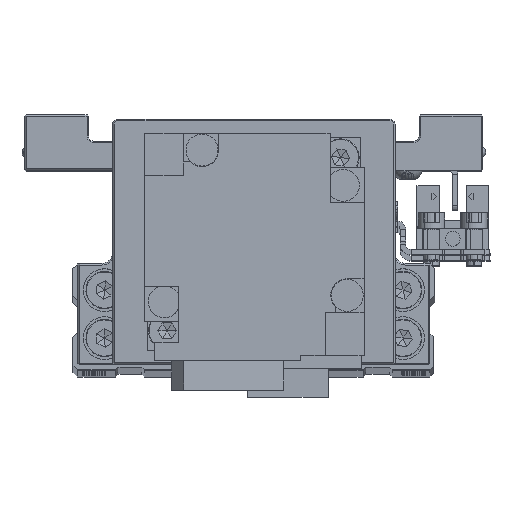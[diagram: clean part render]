
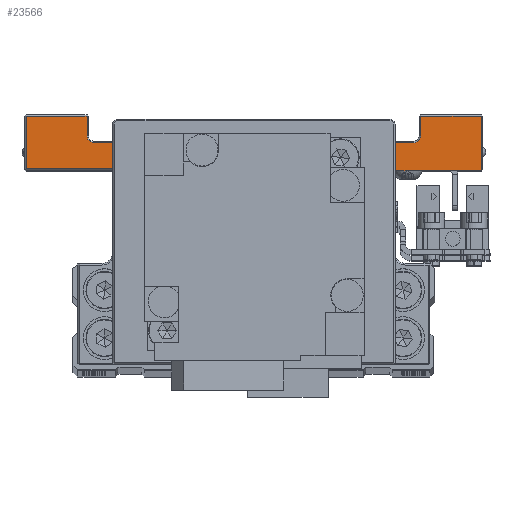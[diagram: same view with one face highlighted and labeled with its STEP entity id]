
A CAD part, top view. The second image highlights one B-rep face of the part: STEP entity #23566.
In plain terms, the highlighted planar face has unit normal (0, 0, 1) as drawn and (1, 0, 0) by its records, which use the part's own axes.
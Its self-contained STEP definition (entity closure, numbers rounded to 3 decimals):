
#17 = CIRCLE ( 'NONE', #21192, 1.3 ) ;
#268 = EDGE_CURVE ( 'NONE', #10484, #15657, #6450, .T. ) ;
#1078 = VECTOR ( 'NONE', #37316, 1000. ) ;
#1325 = EDGE_CURVE ( 'NONE', #1450, #30430, #14223, .T. ) ;
#1450 = VERTEX_POINT ( 'NONE', #26528 ) ;
#1986 = CARTESIAN_POINT ( 'NONE',  ( 45., 17.7, -31.3 ) ) ;
#2356 = CARTESIAN_POINT ( 'NONE',  ( 45., 7.5, 43. ) ) ;
#2492 = VERTEX_POINT ( 'NONE', #27348 ) ;
#3012 = ORIENTED_EDGE ( 'NONE', *, *, #11548, .T. ) ;
#3023 = DIRECTION ( 'NONE',  ( 0., 0., 1. ) ) ;
#3236 = LINE ( 'NONE', #14774, #27435 ) ;
#3666 = CARTESIAN_POINT ( 'NONE',  ( 45., 7.5, -31.3 ) ) ;
#4697 = CARTESIAN_POINT ( 'NONE',  ( 45., 7.8, 42.7 ) ) ;
#5453 = CARTESIAN_POINT ( 'NONE',  ( 45., 14., 30. ) ) ;
#5648 = CARTESIAN_POINT ( 'NONE',  ( 45., -8.2, -19.7 ) ) ;
#5871 = PLANE ( 'NONE',  #34077 ) ;
#6130 = VECTOR ( 'NONE', #6401, 1000. ) ;
#6221 = CARTESIAN_POINT ( 'NONE',  ( 45., 17.7, -20. ) ) ;
#6356 = DIRECTION ( 'NONE',  ( 0., 1., 0. ) ) ;
#6401 = DIRECTION ( 'NONE',  ( 0., 1., 0. ) ) ;
#6414 = DIRECTION ( 'NONE',  ( 0., 0., 1. ) ) ;
#6450 = LINE ( 'NONE', #17993, #26324 ) ;
#6537 = ORIENTED_EDGE ( 'NONE', *, *, #16472, .T. ) ;
#7037 = DIRECTION ( 'NONE',  ( 0., -1., 0. ) ) ;
#7103 = EDGE_CURVE ( 'NONE', #2492, #34181, #20789, .T. ) ;
#7219 = CARTESIAN_POINT ( 'NONE',  ( 45., 7.5, -42.7 ) ) ;
#7418 = VERTEX_POINT ( 'NONE', #23354 ) ;
#7531 = AXIS2_PLACEMENT_3D ( 'NONE', #20805, #32352, #6414 ) ;
#7575 = CARTESIAN_POINT ( 'NONE',  ( 45., -8.2, -20. ) ) ;
#8423 = VECTOR ( 'NONE', #7037, 1000. ) ;
#9667 = DIRECTION ( 'NONE',  ( 0., 0., 1. ) ) ;
#9723 = EDGE_CURVE ( 'NONE', #13286, #10484, #23895, .T. ) ;
#9862 = ORIENTED_EDGE ( 'NONE', *, *, #10209, .T. ) ;
#10166 = CARTESIAN_POINT ( 'NONE',  ( 45., -8.2, 19.7 ) ) ;
#10209 = EDGE_CURVE ( 'NONE', #36637, #29351, #20740, .T. ) ;
#10484 = VERTEX_POINT ( 'NONE', #31123 ) ;
#10487 = EDGE_LOOP ( 'NONE', ( #9862, #6537, #13033, #3012, #16406, #14536, #15116, #15483, #15302, #25348, #14199, #26574, #32326, #18944 ) ) ;
#11048 = CARTESIAN_POINT ( 'NONE',  ( 45., 17.7, 31.3 ) ) ;
#11133 = VECTOR ( 'NONE', #15191, 1000. ) ;
#11548 = EDGE_CURVE ( 'NONE', #7418, #16401, #32140, .T. ) ;
#11819 = VERTEX_POINT ( 'NONE', #24922 ) ;
#11986 = CARTESIAN_POINT ( 'NONE',  ( 45., 7.5, -19.7 ) ) ;
#13033 = ORIENTED_EDGE ( 'NONE', *, *, #34468, .T. ) ;
#13286 = VERTEX_POINT ( 'NONE', #29645 ) ;
#13431 = VECTOR ( 'NONE', #19127, 1000. ) ;
#13882 = DIRECTION ( 'NONE',  ( 0., 0., -1. ) ) ;
#14021 = CARTESIAN_POINT ( 'NONE',  ( 45., 12.7, 30. ) ) ;
#14199 = ORIENTED_EDGE ( 'NONE', *, *, #26915, .T. ) ;
#14223 = LINE ( 'NONE', #25775, #1078 ) ;
#14303 = EDGE_CURVE ( 'NONE', #15657, #2492, #17, .T. ) ;
#14536 = ORIENTED_EDGE ( 'NONE', *, *, #9723, .T. ) ;
#14774 = CARTESIAN_POINT ( 'NONE',  ( 45., 7.8, 20. ) ) ;
#15116 = ORIENTED_EDGE ( 'NONE', *, *, #268, .T. ) ;
#15191 = DIRECTION ( 'NONE',  ( 0., -1., 0. ) ) ;
#15302 = ORIENTED_EDGE ( 'NONE', *, *, #7103, .T. ) ;
#15483 = ORIENTED_EDGE ( 'NONE', *, *, #14303, .T. ) ;
#15657 = VERTEX_POINT ( 'NONE', #14021 ) ;
#16401 = VERTEX_POINT ( 'NONE', #1986 ) ;
#16406 = ORIENTED_EDGE ( 'NONE', *, *, #28095, .T. ) ;
#16472 = EDGE_CURVE ( 'NONE', #29351, #11819, #28292, .T. ) ;
#16993 = DIRECTION ( 'NONE',  ( -1., 0., 0. ) ) ;
#17403 = CARTESIAN_POINT ( 'NONE',  ( 45., 7.5, -20. ) ) ;
#17768 = DIRECTION ( 'NONE',  ( 0., 0., 1. ) ) ;
#17993 = CARTESIAN_POINT ( 'NONE',  ( 45., 12.7, 30. ) ) ;
#18765 = DIRECTION ( 'NONE',  ( 0., 1., 0. ) ) ;
#18944 = ORIENTED_EDGE ( 'NONE', *, *, #20464, .T. ) ;
#19127 = DIRECTION ( 'NONE',  ( 0., 0., -1. ) ) ;
#20464 = EDGE_CURVE ( 'NONE', #30430, #36637, #33522, .T. ) ;
#20522 = VECTOR ( 'NONE', #18765, 1000. ) ;
#20740 = LINE ( 'NONE', #32296, #34082 ) ;
#20789 = LINE ( 'NONE', #32341, #6130 ) ;
#20805 = CARTESIAN_POINT ( 'NONE',  ( 45., 14., -30. ) ) ;
#20826 = VECTOR ( 'NONE', #9667, 1000. ) ;
#20869 = VECTOR ( 'NONE', #17768, 1000. ) ;
#21192 = AXIS2_PLACEMENT_3D ( 'NONE', #5453, #16993, #28574 ) ;
#21441 = LINE ( 'NONE', #32990, #8423 ) ;
#23354 = CARTESIAN_POINT ( 'NONE',  ( 45., 17.7, -42.7 ) ) ;
#23566 = ADVANCED_FACE ( 'NONE', ( #31813 ), #5871, .F. ) ;
#23598 = EDGE_CURVE ( 'NONE', #36540, #1450, #3236, .T. ) ;
#23895 = CIRCLE ( 'NONE', #7531, 1.3 ) ;
#24091 = LINE ( 'NONE', #35615, #20826 ) ;
#24922 = CARTESIAN_POINT ( 'NONE',  ( 45., 7.5, -42.7 ) ) ;
#25348 = ORIENTED_EDGE ( 'NONE', *, *, #31815, .T. ) ;
#25775 = CARTESIAN_POINT ( 'NONE',  ( 45., 7.5, 19.7 ) ) ;
#26321 = DIRECTION ( 'NONE',  ( 0., 0., -1. ) ) ;
#26324 = VECTOR ( 'NONE', #29554, 1000. ) ;
#26528 = CARTESIAN_POINT ( 'NONE',  ( 45., 7.8, 19.7 ) ) ;
#26574 = ORIENTED_EDGE ( 'NONE', *, *, #23598, .T. ) ;
#26915 = EDGE_CURVE ( 'NONE', #30384, #36540, #21441, .T. ) ;
#27348 = CARTESIAN_POINT ( 'NONE',  ( 45., 14., 31.3 ) ) ;
#27435 = VECTOR ( 'NONE', #26321, 1000. ) ;
#28095 = EDGE_CURVE ( 'NONE', #16401, #13286, #29594, .T. ) ;
#28292 = LINE ( 'NONE', #2356, #30293 ) ;
#28574 = DIRECTION ( 'NONE',  ( 0., 0., 1. ) ) ;
#28968 = DIRECTION ( 'NONE',  ( -1., 0., 0. ) ) ;
#29351 = VERTEX_POINT ( 'NONE', #11986 ) ;
#29554 = DIRECTION ( 'NONE',  ( 0., 0., 1. ) ) ;
#29594 = LINE ( 'NONE', #3666, #11133 ) ;
#29645 = CARTESIAN_POINT ( 'NONE',  ( 45., 14., -31.3 ) ) ;
#29899 = CARTESIAN_POINT ( 'NONE',  ( 45., 17.7, 42.7 ) ) ;
#30293 = VECTOR ( 'NONE', #13882, 1000. ) ;
#30384 = VERTEX_POINT ( 'NONE', #29899 ) ;
#30430 = VERTEX_POINT ( 'NONE', #10166 ) ;
#31123 = CARTESIAN_POINT ( 'NONE',  ( 45., 12.7, -30. ) ) ;
#31813 = FACE_OUTER_BOUND ( 'NONE', #10487, .T. ) ;
#31815 = EDGE_CURVE ( 'NONE', #34181, #30384, #24091, .T. ) ;
#32140 = LINE ( 'NONE', #6221, #20869 ) ;
#32296 = CARTESIAN_POINT ( 'NONE',  ( 45., 7.5, -19.7 ) ) ;
#32326 = ORIENTED_EDGE ( 'NONE', *, *, #1325, .T. ) ;
#32341 = CARTESIAN_POINT ( 'NONE',  ( 45., 7.5, 31.3 ) ) ;
#32352 = DIRECTION ( 'NONE',  ( -1., 0., 0. ) ) ;
#32990 = CARTESIAN_POINT ( 'NONE',  ( 45., 7.5, 42.7 ) ) ;
#33167 = LINE ( 'NONE', #7219, #20522 ) ;
#33522 = LINE ( 'NONE', #7575, #13431 ) ;
#34077 = AXIS2_PLACEMENT_3D ( 'NONE', #17403, #28968, #3023 ) ;
#34082 = VECTOR ( 'NONE', #6356, 1000. ) ;
#34181 = VERTEX_POINT ( 'NONE', #11048 ) ;
#34468 = EDGE_CURVE ( 'NONE', #11819, #7418, #33167, .T. ) ;
#35615 = CARTESIAN_POINT ( 'NONE',  ( 45., 17.7, -20. ) ) ;
#36540 = VERTEX_POINT ( 'NONE', #4697 ) ;
#36637 = VERTEX_POINT ( 'NONE', #5648 ) ;
#37316 = DIRECTION ( 'NONE',  ( 0., -1., 0. ) ) ;
